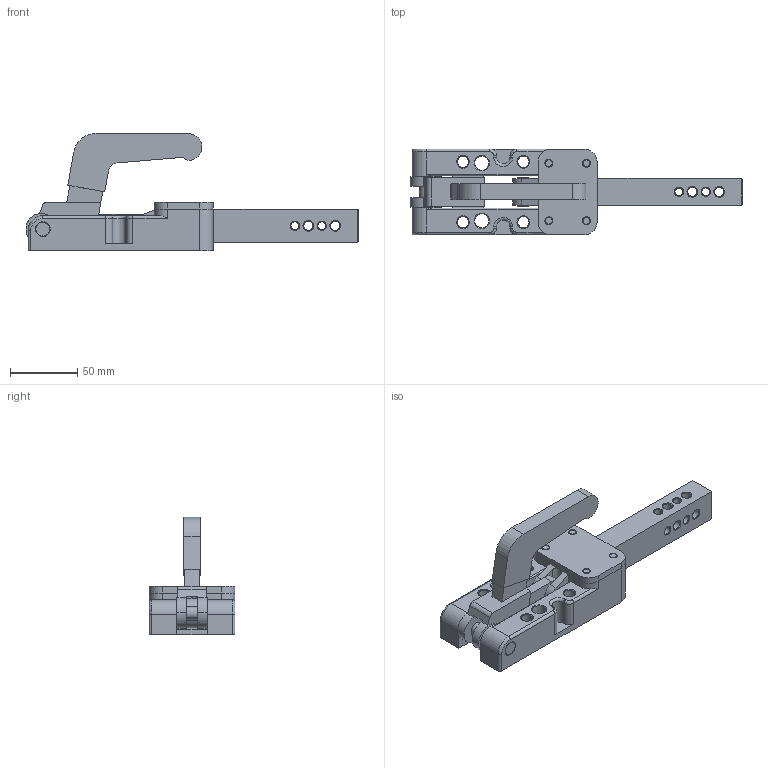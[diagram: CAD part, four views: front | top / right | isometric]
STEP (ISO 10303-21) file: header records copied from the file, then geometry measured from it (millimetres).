
FILE_DESCRIPTION (( 'STEP AP214' ), '1' );
FILE_NAME ('M66K-5.STEP', '2020-12-01T09:23:36', ( '' ), ( '' ), 'SwSTEP 2.0', 'SolidWorks 2015', '' );
FILE_SCHEMA (( 'AUTOMOTIVE_DESIGN' ));
Length unit declared in the file: millimetre
Products named in the file (8): 842PK-5-3 tirnak_id42_x_t; 842PK-5-8_id37_x_t; civata_id26_x_t; 842PD-5-01_Govde_id21_x_t; 842PD-5-01_Govde_id16_x_t; 842PK-5-2 mil_id11_x_t; 842PK-5-7 kol_id6_x_t; M66K-5
Assembly tree (10 placements, depth 2):
  M66K-5
    842PK-5-7 kol_id6_x_t
    842PK-5-2 mil_id11_x_t
    842PD-5-01_Govde_id16_x_t
    842PD-5-01_Govde_id21_x_t
    civata_id26_x_t  x4
    842PK-5-8_id37_x_t
    842PK-5-3 tirnak_id42_x_t
Bounding box: 247.45 x 64 x 87.42 mm (x, y, z)
Volume: 298666.3 mm3; surface area: 91283.7 mm2
Topology: 10 solids, 10 shells, 400 faces, 969 edges, 596 vertices
Faces by surface type: cylinder 161, plane 126, cone 86, bspline 27
Entity records: 16042 total; most frequent: CARTESIAN_POINT 3446, DIRECTION 1859, ORIENTED_EDGE 1710, EDGE_CURVE 855, AXIS2_PLACEMENT_3D 710, VERTEX_POINT 524, LINE 439, VECTOR 439
